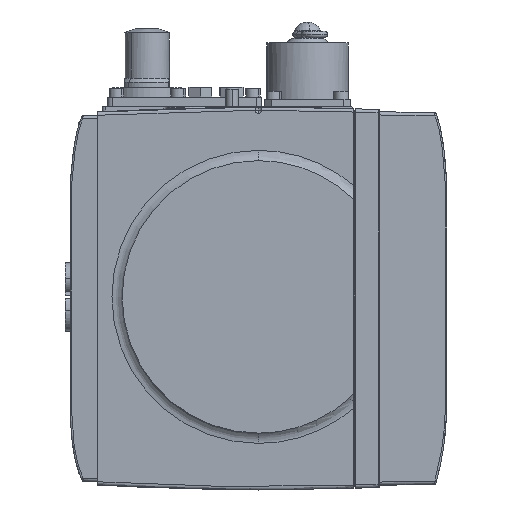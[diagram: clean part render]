
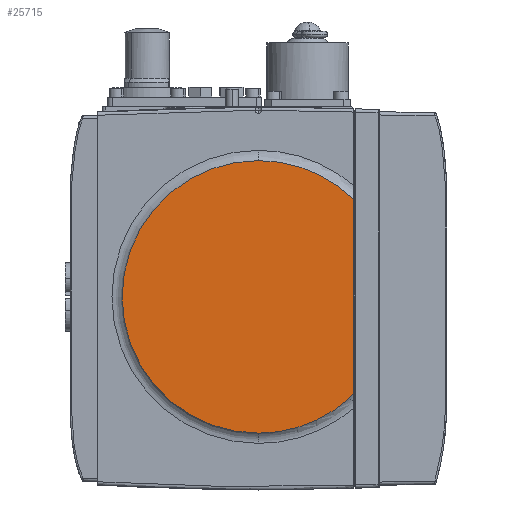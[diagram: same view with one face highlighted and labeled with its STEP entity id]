
A CAD part, left-side view. The second image highlights one B-rep face of the part: STEP entity #25715.
In plain terms, the highlighted planar face has unit normal (-1, 0, 0).
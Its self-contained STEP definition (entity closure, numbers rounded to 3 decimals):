
#32 = AXIS2_PLACEMENT_3D ( 'NONE', #30659, #30661, #30663 ) ;
#1955 = CARTESIAN_POINT ( 'NONE',  ( 288.5, 0., 847.504 ) ) ;
#1981 = CARTESIAN_POINT ( 'NONE',  ( 288.5, -27.905, 858.253 ) ) ;
#1985 = CARTESIAN_POINT ( 'NONE',  ( 288.5, 0., 930.696 ) ) ;
#2332 = CARTESIAN_POINT ( 'NONE',  ( 288.5, -29.058, 859.592 ) ) ;
#2347 = CARTESIAN_POINT ( 'NONE',  ( 288.5, -29.058, 918.863 ) ) ;
#6238 = CARTESIAN_POINT ( 'NONE',  ( 288.5, 0., 889.1 ) ) ;
#6242 = PLANE ( 'NONE',  #29664 ) ;
#6244 = DIRECTION ( 'NONE',  ( -1., 0., 0. ) ) ;
#6245 = DIRECTION ( 'NONE',  ( 0., 0., -1. ) ) ;
#11246 = EDGE_LOOP ( 'NONE', ( #18334, #18335, #18337, #18339, #18341 ) ) ;
#15519 = VERTEX_POINT ( 'NONE', #2347 ) ;
#15535 = VERTEX_POINT ( 'NONE', #2332 ) ;
#15898 = VERTEX_POINT ( 'NONE', #1985 ) ;
#15902 = VERTEX_POINT ( 'NONE', #1981 ) ;
#15930 = VERTEX_POINT ( 'NONE', #1955 ) ;
#16290 = FACE_OUTER_BOUND ( 'NONE', #11246, .T. ) ;
#18334 = ORIENTED_EDGE ( 'NONE', *, *, #34778, .T. ) ;
#18335 = ORIENTED_EDGE ( 'NONE', *, *, #22354, .T. ) ;
#18337 = ORIENTED_EDGE ( 'NONE', *, *, #22349, .T. ) ;
#18339 = ORIENTED_EDGE ( 'NONE', *, *, #34787, .T. ) ;
#18341 = ORIENTED_EDGE ( 'NONE', *, *, #34794, .T. ) ;
#20196 = AXIS2_PLACEMENT_3D ( 'NONE', #34160, #34161, #34162 ) ;
#20200 = AXIS2_PLACEMENT_3D ( 'NONE', #34177, #34178, #34179 ) ;
#22349 = EDGE_CURVE ( 'NONE', #15930, #15902, #23323, .T. ) ;
#22354 = EDGE_CURVE ( 'NONE', #15898, #15930, #23326, .T. ) ;
#23323 = CIRCLE ( 'NONE', #20196, 41.596 ) ;
#23326 = CIRCLE ( 'NONE', #20200, 41.596 ) ;
#24342 = B_SPLINE_CURVE_WITH_KNOTS ( 'NONE', 3,
 ( #30683, #30686, #30695, #30696 ),
 .UNSPECIFIED., .F., .F.,
 ( 4, 4 ),
 ( 0., 0.002 ),
 .UNSPECIFIED. ) ;
#25715 = ADVANCED_FACE ( 'NONE', ( #16290 ), #6242, .T. ) ;
#28579 = CIRCLE ( 'NONE', #32, 41.596 ) ;
#28585 = LINE ( 'NONE', #30719, #28586 ) ;
#28586 = VECTOR ( 'NONE', #30721, 1000. ) ;
#29664 = AXIS2_PLACEMENT_3D ( 'NONE', #6238, #6244, #6245 ) ;
#30659 = CARTESIAN_POINT ( 'NONE',  ( 288.5, 0., 889.1 ) ) ;
#30661 = DIRECTION ( 'NONE',  ( -1., 0., 0. ) ) ;
#30663 = DIRECTION ( 'NONE',  ( 0., 0., 1. ) ) ;
#30683 = CARTESIAN_POINT ( 'NONE',  ( 288.5, -27.905, 858.253 ) ) ;
#30686 = CARTESIAN_POINT ( 'NONE',  ( 288.5, -28.348, 858.654 ) ) ;
#30695 = CARTESIAN_POINT ( 'NONE',  ( 288.5, -28.721, 859.109 ) ) ;
#30696 = CARTESIAN_POINT ( 'NONE',  ( 288.5, -29.058, 859.592 ) ) ;
#30719 = CARTESIAN_POINT ( 'NONE',  ( 288.5, -29.058, 809.1 ) ) ;
#30721 = DIRECTION ( 'NONE',  ( 0., 0., 1. ) ) ;
#34160 = CARTESIAN_POINT ( 'NONE',  ( 288.5, 0., 889.1 ) ) ;
#34161 = DIRECTION ( 'NONE',  ( -1., 0., 0. ) ) ;
#34162 = DIRECTION ( 'NONE',  ( 0., 0., 1. ) ) ;
#34177 = CARTESIAN_POINT ( 'NONE',  ( 288.5, 0., 889.1 ) ) ;
#34178 = DIRECTION ( 'NONE',  ( -1., 0., 0. ) ) ;
#34179 = DIRECTION ( 'NONE',  ( 0., 0., 1. ) ) ;
#34778 = EDGE_CURVE ( 'NONE', #15519, #15898, #28579, .T. ) ;
#34787 = EDGE_CURVE ( 'NONE', #15902, #15535, #24342, .T. ) ;
#34794 = EDGE_CURVE ( 'NONE', #15535, #15519, #28585, .T. ) ;
